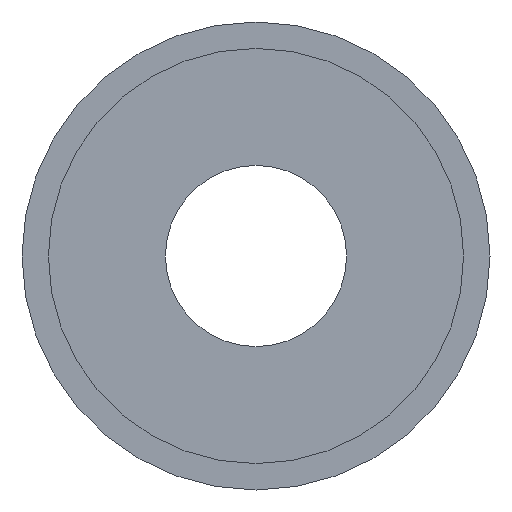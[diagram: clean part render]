
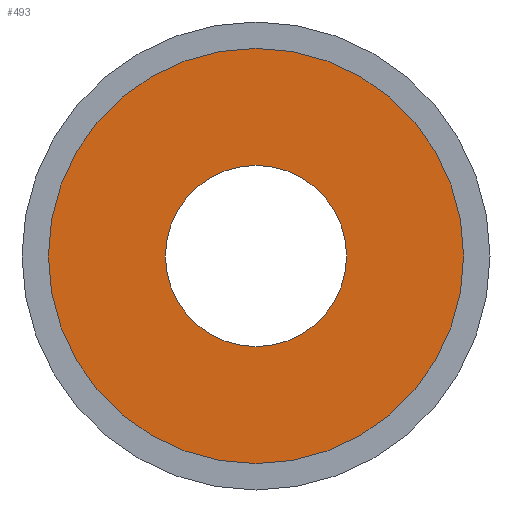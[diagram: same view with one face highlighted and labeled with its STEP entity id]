
A CAD part, front view. The second image highlights one B-rep face of the part: STEP entity #493.
In plain terms, the highlighted planar face has unit normal (0, -1, 0).
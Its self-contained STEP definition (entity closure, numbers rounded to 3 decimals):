
#6 = ORIENTED_EDGE ( 'NONE', *, *, #1964, .T. ) ;
#10 = DIRECTION ( 'NONE',  ( 0., -1., 0. ) ) ;
#69 = CARTESIAN_POINT ( 'NONE',  ( 0., -15., 0. ) ) ;
#76 = PLANE ( 'NONE',  #114 ) ;
#114 = AXIS2_PLACEMENT_3D ( 'NONE', #1145, #1783, #1485 ) ;
#118 = VERTEX_POINT ( 'NONE', #1744 ) ;
#198 = DIRECTION ( 'NONE',  ( 0., 0., -1. ) ) ;
#323 = AXIS2_PLACEMENT_3D ( 'NONE', #694, #711, #991 ) ;
#362 = CARTESIAN_POINT ( 'NONE',  ( 0., -15., 0. ) ) ;
#470 = VERTEX_POINT ( 'NONE', #559 ) ;
#471 = EDGE_CURVE ( 'NONE', #470, #118, #1039, .T. ) ;
#493 = ADVANCED_FACE ( 'NONE', ( #627, #1606 ), #76, .F. ) ;
#516 = ORIENTED_EDGE ( 'NONE', *, *, #548, .T. ) ;
#535 = CIRCLE ( 'NONE', #323, 27.5 ) ;
#538 = DIRECTION ( 'NONE',  ( 0., 0., -1. ) ) ;
#548 = EDGE_CURVE ( 'NONE', #837, #1845, #535, .T. ) ;
#559 = CARTESIAN_POINT ( 'NONE',  ( 0., -15., -12. ) ) ;
#627 = FACE_BOUND ( 'NONE', #1001, .T. ) ;
#694 = CARTESIAN_POINT ( 'NONE',  ( 0., -15., 0. ) ) ;
#711 = DIRECTION ( 'NONE',  ( 0., -1., 0. ) ) ;
#743 = ORIENTED_EDGE ( 'NONE', *, *, #471, .F. ) ;
#837 = VERTEX_POINT ( 'NONE', #884 ) ;
#884 = CARTESIAN_POINT ( 'NONE',  ( 0., -15., -27.5 ) ) ;
#980 = EDGE_LOOP ( 'NONE', ( #516, #6 ) ) ;
#991 = DIRECTION ( 'NONE',  ( 0., 0., -1. ) ) ;
#1001 = EDGE_LOOP ( 'NONE', ( #743, #1273 ) ) ;
#1039 = CIRCLE ( 'NONE', #1056, 12. ) ;
#1056 = AXIS2_PLACEMENT_3D ( 'NONE', #69, #1171, #1349 ) ;
#1134 = EDGE_CURVE ( 'NONE', #118, #470, #1192, .T. ) ;
#1145 = CARTESIAN_POINT ( 'NONE',  ( 0., -15., 12. ) ) ;
#1171 = DIRECTION ( 'NONE',  ( 0., -1., 0. ) ) ;
#1185 = DIRECTION ( 'NONE',  ( 0., -1., 0. ) ) ;
#1192 = CIRCLE ( 'NONE', #1260, 12. ) ;
#1260 = AXIS2_PLACEMENT_3D ( 'NONE', #362, #10, #198 ) ;
#1273 = ORIENTED_EDGE ( 'NONE', *, *, #1134, .F. ) ;
#1349 = DIRECTION ( 'NONE',  ( 0., 0., -1. ) ) ;
#1485 = DIRECTION ( 'NONE',  ( 0., 0., 1. ) ) ;
#1578 = CIRCLE ( 'NONE', #1742, 27.5 ) ;
#1606 = FACE_OUTER_BOUND ( 'NONE', #980, .T. ) ;
#1742 = AXIS2_PLACEMENT_3D ( 'NONE', #1804, #1185, #538 ) ;
#1744 = CARTESIAN_POINT ( 'NONE',  ( 0., -15., 12. ) ) ;
#1761 = CARTESIAN_POINT ( 'NONE',  ( 0., -15., 27.5 ) ) ;
#1783 = DIRECTION ( 'NONE',  ( 0., 1., 0. ) ) ;
#1804 = CARTESIAN_POINT ( 'NONE',  ( 0., -15., 0. ) ) ;
#1845 = VERTEX_POINT ( 'NONE', #1761 ) ;
#1964 = EDGE_CURVE ( 'NONE', #1845, #837, #1578, .T. ) ;
